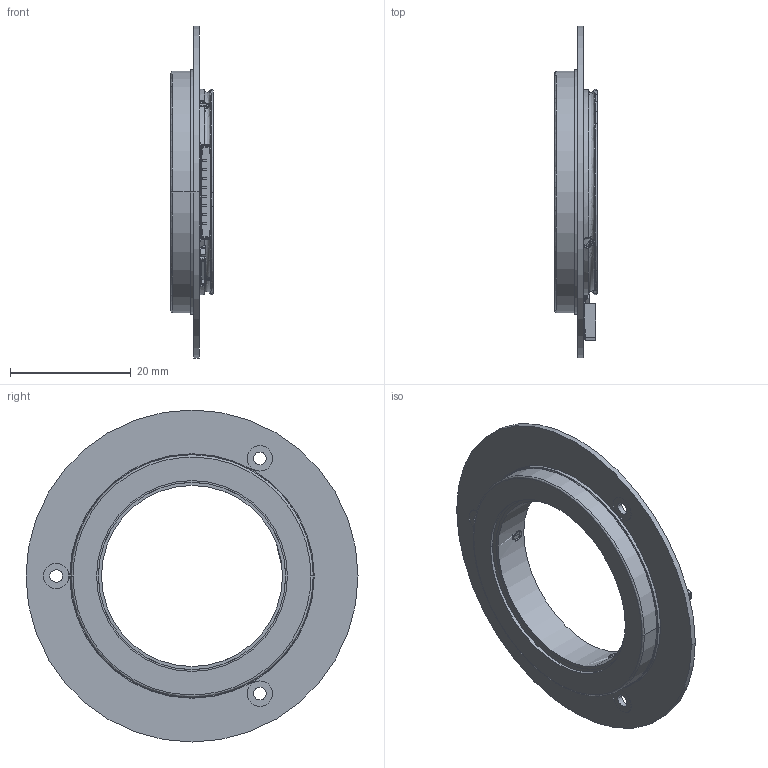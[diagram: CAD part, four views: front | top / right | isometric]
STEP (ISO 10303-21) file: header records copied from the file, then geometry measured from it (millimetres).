
FILE_DESCRIPTION (( 'STEP AP214' ), '1' );
FILE_NAME ('MBS-30-55¸üÐÂ.STEP', '2024-07-16T02:30:09', ( '' ), ( '' ), 'SwSTEP 2.0', 'SolidWorks 2016', '' );
FILE_SCHEMA (( 'AUTOMOTIVE_DESIGN' ));
Length unit declared in the file: millimetre
Products named in the file (1): MBS-30-55載陔
Bounding box: 7 x 55 x 55 mm (x, y, z)
Surface area: 8118.9 mm2 (no closed solid volume)
Topology: 0 solids, 30 shells, 1377 faces, 3738 edges, 2439 vertices
Faces by surface type: plane 886, bspline 331, cylinder 145, cone 15
Full cylindrical faces by diameter (mm): 30 x1
Entity records: 95308 total; most frequent: CARTESIAN_POINT 56639, ORIENTED_EDGE 7417, DIRECTION 5400, EDGE_CURVE 3713, LINE 2696, VECTOR 2696, VERTEX_POINT 2436, EDGE_LOOP 1467
